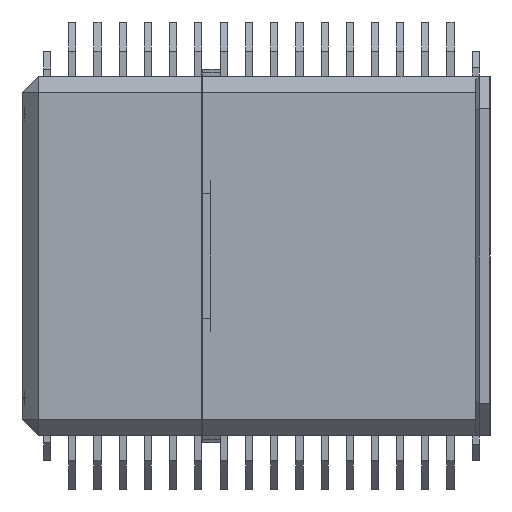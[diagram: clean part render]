
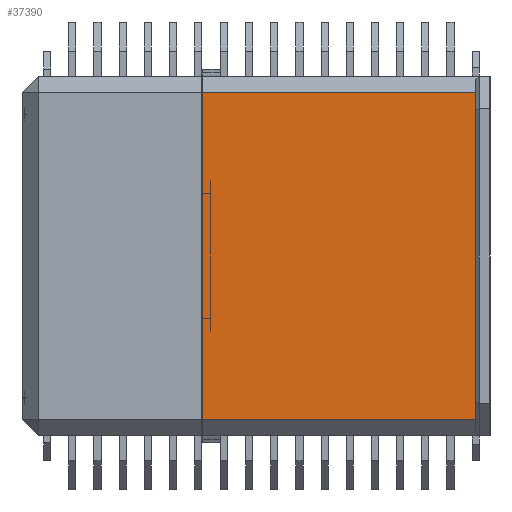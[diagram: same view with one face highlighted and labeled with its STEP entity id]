
A CAD part, left-side view. The second image highlights one B-rep face of the part: STEP entity #37390.
In plain terms, the highlighted planar face has unit normal (-1, 0, 0).
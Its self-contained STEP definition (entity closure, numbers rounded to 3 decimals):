
#258 = ORIENTED_EDGE ( 'NONE', *, *, #20814, .F. ) ;
#375 = LINE ( 'NONE', #44803, #54815 ) ;
#785 = PLANE ( 'NONE',  #54610 ) ;
#1083 = CARTESIAN_POINT ( 'NONE',  ( -250.804, -22.504, -50. ) ) ;
#3016 = EDGE_CURVE ( 'NONE', #45012, #50878, #42188, .T. ) ;
#3379 = VECTOR ( 'NONE', #10185, 1000. ) ;
#3655 = CARTESIAN_POINT ( 'NONE',  ( -250.804, 57.496, -50. ) ) ;
#5103 = DIRECTION ( 'NONE',  ( 0., 0., 1. ) ) ;
#6275 = VERTEX_POINT ( 'NONE', #51184 ) ;
#6574 = DIRECTION ( 'NONE',  ( 0., -1., 0. ) ) ;
#10185 = DIRECTION ( 'NONE',  ( 0., 1., 0. ) ) ;
#10251 = DIRECTION ( 'NONE',  ( -1., 0., 0. ) ) ;
#13180 = FACE_OUTER_BOUND ( 'NONE', #29308, .T. ) ;
#15006 = CARTESIAN_POINT ( 'NONE',  ( -250.804, 57.496, -45.5 ) ) ;
#15081 = CARTESIAN_POINT ( 'NONE',  ( -250.804, -22.504, 45.5 ) ) ;
#19188 = CARTESIAN_POINT ( 'NONE',  ( -250.804, -22.504, -45.5 ) ) ;
#20814 = EDGE_CURVE ( 'NONE', #6275, #24205, #37469, .T. ) ;
#21274 = LINE ( 'NONE', #3655, #28948 ) ;
#21402 = CARTESIAN_POINT ( 'NONE',  ( -250.804, -18.504, 45.5 ) ) ;
#24205 = VERTEX_POINT ( 'NONE', #21402 ) ;
#28948 = VECTOR ( 'NONE', #47781, 1000. ) ;
#29308 = EDGE_LOOP ( 'NONE', ( #53997, #56787, #54090, #258 ) ) ;
#30984 = CARTESIAN_POINT ( 'NONE',  ( -250.804, -18.504, -45.5 ) ) ;
#32645 = VECTOR ( 'NONE', #6574, 1000. ) ;
#37390 = ADVANCED_FACE ( 'NONE', ( #13180 ), #785, .T. ) ;
#37469 = LINE ( 'NONE', #15081, #32645 ) ;
#42188 = LINE ( 'NONE', #19188, #3379 ) ;
#44803 = CARTESIAN_POINT ( 'NONE',  ( -250.804, -18.504, -25. ) ) ;
#45012 = VERTEX_POINT ( 'NONE', #30984 ) ;
#47781 = DIRECTION ( 'NONE',  ( 0., 0., 1. ) ) ;
#48589 = EDGE_CURVE ( 'NONE', #50878, #6275, #21274, .T. ) ;
#50878 = VERTEX_POINT ( 'NONE', #15006 ) ;
#51184 = CARTESIAN_POINT ( 'NONE',  ( -250.804, 57.496, 45.5 ) ) ;
#53997 = ORIENTED_EDGE ( 'NONE', *, *, #48589, .F. ) ;
#54090 = ORIENTED_EDGE ( 'NONE', *, *, #54180, .T. ) ;
#54180 = EDGE_CURVE ( 'NONE', #45012, #24205, #375, .T. ) ;
#54610 = AXIS2_PLACEMENT_3D ( 'NONE', #1083, #10251, #55496 ) ;
#54815 = VECTOR ( 'NONE', #5103, 1000. ) ;
#55496 = DIRECTION ( 'NONE',  ( 0., 0., 1. ) ) ;
#56787 = ORIENTED_EDGE ( 'NONE', *, *, #3016, .F. ) ;
